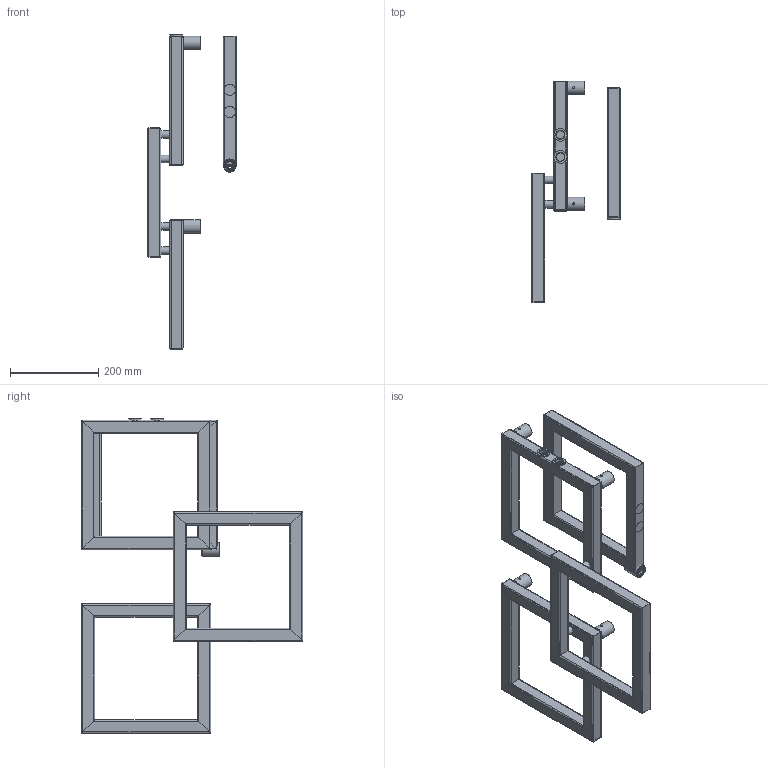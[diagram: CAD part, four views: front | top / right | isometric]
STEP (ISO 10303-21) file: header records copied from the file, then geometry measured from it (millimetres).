
FILE_DESCRIPTION( ( 'Unknown' ), '1' );
FILE_NAME( 'V:/DESIGN PROGRAM/LOCO mini/STP/LOCO 3 mini LEWY.stp', 'Unknown', ( 'Unknown' ), ( 'Unknown' ), 'PSStep 10.1', 'Unknown', ' ' );
FILE_SCHEMA( ( 'AUTOMOTIVE_DESIGN { 1 0 10303 214 1 1 1 1 }' ) );
Length unit declared in the file: millimetre
Products named in the file (26): Ramka 1 LEWY; Ramka 2; Ramka 3; Assem1; Mocowanie L40; MOCOWANIE L40-01; MOCOWANIE FASOLKA; MOCOWANIE L40-03; czêœæ 3; czêœæ 1; czêœæ 5; czêœæ 6; czêœæ 3-oa4; czêœæ 1-oa5; czêœæ 2; czêœæ 4; czêœæ 3-oa6; czêœæ 3-oa7; czêœæ 1-oa8; czêœæ 2-oa9; ｳｹcznik ; ｳｹcznik -oa0; ｳｹcznik -oa1; ｳｹcznik -oa2; Zaslepka fi 30 z gwintem ; Zaslepka fi 30 z gwintem -oa3
Bounding box: 200.65 x 500 x 710.5 mm (x, y, z)
Volume: 1677412.1 mm3; surface area: 2184588.2 mm2
Topology: 66 solids, 66 shells, 924 faces, 2370 edges, 1580 vertices
Faces by surface type: plane 470, cylinder 416, cone 30, torus 8
Full cylindrical faces by diameter (mm): 4.917 x6, 12.5 x8, 15.5 x8, 16.3 x8, 16.5 x24, 17 x6, 17.2 x8, 18.631 x4, 20 x6, 22 x6, 22.7 x6, 23 x6, 25 x4, 25.25 x6, 29 x4, 30 x6
Entity records: 11917 total; most frequent: CARTESIAN_POINT 1710, DIRECTION 1630, ORIENTED_EDGE 1390, EDGE_CURVE 695, AXIS2_PLACEMENT_3D 615, VERTEX_POINT 491, EDGE_LOOP 420, LINE 400
